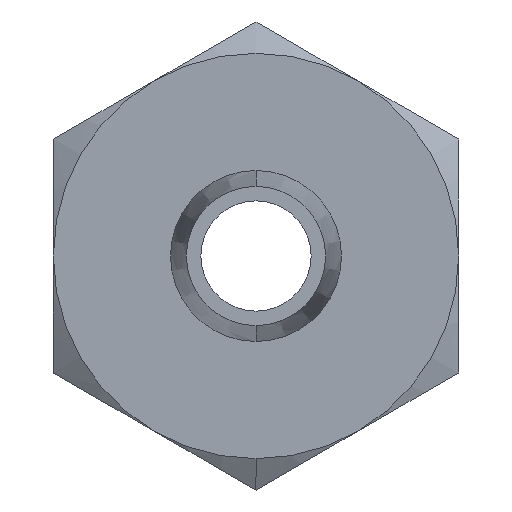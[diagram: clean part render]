
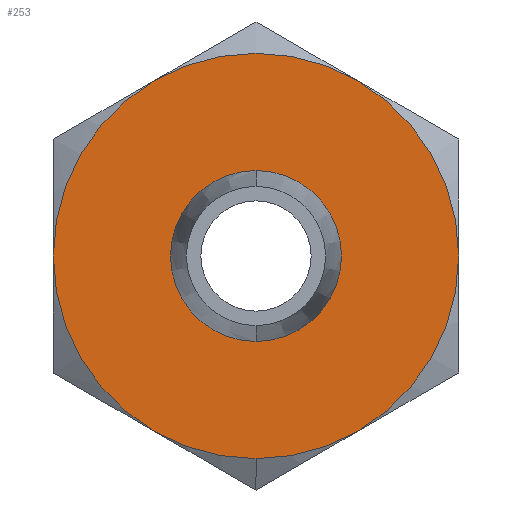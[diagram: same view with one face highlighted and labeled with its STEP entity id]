
A CAD part, left-side view. The second image highlights one B-rep face of the part: STEP entity #253.
In plain terms, the highlighted planar face has unit normal (-1, 0, 0).
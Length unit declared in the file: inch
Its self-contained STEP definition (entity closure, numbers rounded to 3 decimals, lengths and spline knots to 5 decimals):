
#2 = AXIS2_PLACEMENT_3D ( 'NONE', #913, #262, #484 ) ;
#30 = CARTESIAN_POINT ( 'NONE',  ( 0.97, -0.34375, 0. ) ) ;
#48 = VERTEX_POINT ( 'NONE', #1116 ) ;
#56 = CIRCLE ( 'NONE', #1192, 0.145 ) ;
#73 = DIRECTION ( 'NONE',  ( 0., 1., 0. ) ) ;
#89 = EDGE_CURVE ( 'NONE', #1093, #1247, #361, .T. ) ;
#92 = VERTEX_POINT ( 'NONE', #1123 ) ;
#128 = ORIENTED_EDGE ( 'NONE', *, *, #1108, .F. ) ;
#155 = CARTESIAN_POINT ( 'NONE',  ( 0.97, 0., 0. ) ) ;
#174 = AXIS2_PLACEMENT_3D ( 'NONE', #894, #1009, #1329 ) ;
#179 = CIRCLE ( 'NONE', #2, 0.34375 ) ;
#184 = ORIENTED_EDGE ( 'NONE', *, *, #1055, .F. ) ;
#246 = DIRECTION ( 'NONE',  ( 0., 0., -1. ) ) ;
#252 = CIRCLE ( 'NONE', #881, 0.34375 ) ;
#253 = ADVANCED_FACE ( 'NONE', ( #1044, #514 ), #610, .F. ) ;
#256 = ORIENTED_EDGE ( 'NONE', *, *, #918, .F. ) ;
#261 = ORIENTED_EDGE ( 'NONE', *, *, #1302, .F. ) ;
#262 = DIRECTION ( 'NONE',  ( 1., 0., 0. ) ) ;
#287 = CIRCLE ( 'NONE', #905, 0.34375 ) ;
#294 = DIRECTION ( 'NONE',  ( 0., 1., 0. ) ) ;
#300 = AXIS2_PLACEMENT_3D ( 'NONE', #1157, #1163, #1359 ) ;
#302 = CIRCLE ( 'NONE', #706, 0.34375 ) ;
#307 = CIRCLE ( 'NONE', #300, 0.34375 ) ;
#361 = CIRCLE ( 'NONE', #393, 0.34375 ) ;
#364 = ORIENTED_EDGE ( 'NONE', *, *, #89, .F. ) ;
#369 = CARTESIAN_POINT ( 'NONE',  ( 0.97, 0., 0. ) ) ;
#372 = DIRECTION ( 'NONE',  ( 1., 0., 0. ) ) ;
#393 = AXIS2_PLACEMENT_3D ( 'NONE', #663, #472, #466 ) ;
#401 = CARTESIAN_POINT ( 'NONE',  ( 0.97, 0.17188, -0.2977 ) ) ;
#427 = DIRECTION ( 'NONE',  ( 1., 0., 0. ) ) ;
#435 = CARTESIAN_POINT ( 'NONE',  ( 0.97, -0.17188, -0.2977 ) ) ;
#466 = DIRECTION ( 'NONE',  ( 0., 0., -1. ) ) ;
#472 = DIRECTION ( 'NONE',  ( 1., 0., 0. ) ) ;
#481 = DIRECTION ( 'NONE',  ( 0., 0., -1. ) ) ;
#484 = DIRECTION ( 'NONE',  ( 0., 0., -1. ) ) ;
#504 = VERTEX_POINT ( 'NONE', #435 ) ;
#514 = FACE_OUTER_BOUND ( 'NONE', #959, .T. ) ;
#544 = AXIS2_PLACEMENT_3D ( 'NONE', #155, #702, #1076 ) ;
#547 = CARTESIAN_POINT ( 'NONE',  ( 0.97, -0.17188, 0.2977 ) ) ;
#588 = VERTEX_POINT ( 'NONE', #1228 ) ;
#604 = ORIENTED_EDGE ( 'NONE', *, *, #1284, .F. ) ;
#610 = PLANE ( 'NONE',  #544 ) ;
#614 = DIRECTION ( 'NONE',  ( -1., 0., 0. ) ) ;
#617 = VERTEX_POINT ( 'NONE', #1246 ) ;
#655 = CARTESIAN_POINT ( 'NONE',  ( 0.97, 0., 0. ) ) ;
#663 = CARTESIAN_POINT ( 'NONE',  ( 0.97, 0., 0. ) ) ;
#667 = CIRCLE ( 'NONE', #1262, 0.145 ) ;
#702 = DIRECTION ( 'NONE',  ( 1., 0., 0. ) ) ;
#703 = EDGE_CURVE ( 'NONE', #1247, #504, #252, .T. ) ;
#706 = AXIS2_PLACEMENT_3D ( 'NONE', #655, #427, #972 ) ;
#729 = ORIENTED_EDGE ( 'NONE', *, *, #996, .F. ) ;
#781 = VERTEX_POINT ( 'NONE', #1383 ) ;
#839 = CARTESIAN_POINT ( 'NONE',  ( 0.97, 0., 0. ) ) ;
#881 = AXIS2_PLACEMENT_3D ( 'NONE', #1034, #1152, #481 ) ;
#894 = CARTESIAN_POINT ( 'NONE',  ( 0.97, 0., 0. ) ) ;
#905 = AXIS2_PLACEMENT_3D ( 'NONE', #369, #372, #246 ) ;
#913 = CARTESIAN_POINT ( 'NONE',  ( 0.97, 0., 0. ) ) ;
#918 = EDGE_CURVE ( 'NONE', #588, #48, #56, .T. ) ;
#919 = VERTEX_POINT ( 'NONE', #401 ) ;
#921 = EDGE_LOOP ( 'NONE', ( #256, #729 ) ) ;
#959 = EDGE_LOOP ( 'NONE', ( #184, #128, #1273, #604, #261, #1191, #364 ) ) ;
#972 = DIRECTION ( 'NONE',  ( 0., 0., -1. ) ) ;
#980 = DIRECTION ( 'NONE',  ( -1., 0., 0. ) ) ;
#996 = EDGE_CURVE ( 'NONE', #48, #588, #667, .T. ) ;
#1009 = DIRECTION ( 'NONE',  ( 1., 0., 0. ) ) ;
#1034 = CARTESIAN_POINT ( 'NONE',  ( 0.97, 0., 0. ) ) ;
#1042 = CIRCLE ( 'NONE', #174, 0.34375 ) ;
#1044 = FACE_BOUND ( 'NONE', #921, .T. ) ;
#1055 = EDGE_CURVE ( 'NONE', #92, #1093, #302, .T. ) ;
#1076 = DIRECTION ( 'NONE',  ( 0., 0., -1. ) ) ;
#1078 = CARTESIAN_POINT ( 'NONE',  ( 0.97, 0., 0. ) ) ;
#1093 = VERTEX_POINT ( 'NONE', #547 ) ;
#1108 = EDGE_CURVE ( 'NONE', #617, #92, #1042, .T. ) ;
#1116 = CARTESIAN_POINT ( 'NONE',  ( 0.97, -0.145, 0. ) ) ;
#1123 = CARTESIAN_POINT ( 'NONE',  ( 0.97, 0.17188, 0.2977 ) ) ;
#1152 = DIRECTION ( 'NONE',  ( 1., 0., 0. ) ) ;
#1157 = CARTESIAN_POINT ( 'NONE',  ( 0.97, 0., 0. ) ) ;
#1163 = DIRECTION ( 'NONE',  ( 1., 0., 0. ) ) ;
#1191 = ORIENTED_EDGE ( 'NONE', *, *, #703, .F. ) ;
#1192 = AXIS2_PLACEMENT_3D ( 'NONE', #1078, #614, #294 ) ;
#1228 = CARTESIAN_POINT ( 'NONE',  ( 0.97, 0.145, 0. ) ) ;
#1246 = CARTESIAN_POINT ( 'NONE',  ( 0.97, 0.34375, 0. ) ) ;
#1247 = VERTEX_POINT ( 'NONE', #30 ) ;
#1262 = AXIS2_PLACEMENT_3D ( 'NONE', #839, #980, #73 ) ;
#1273 = ORIENTED_EDGE ( 'NONE', *, *, #1279, .F. ) ;
#1279 = EDGE_CURVE ( 'NONE', #919, #617, #287, .T. ) ;
#1284 = EDGE_CURVE ( 'NONE', #781, #919, #179, .T. ) ;
#1302 = EDGE_CURVE ( 'NONE', #504, #781, #307, .T. ) ;
#1329 = DIRECTION ( 'NONE',  ( 0., 0., -1. ) ) ;
#1359 = DIRECTION ( 'NONE',  ( 0., 0., -1. ) ) ;
#1383 = CARTESIAN_POINT ( 'NONE',  ( 0.97, 0., -0.34375 ) ) ;
